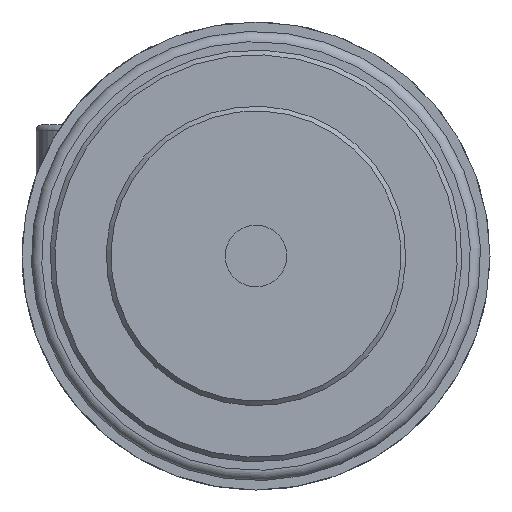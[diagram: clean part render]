
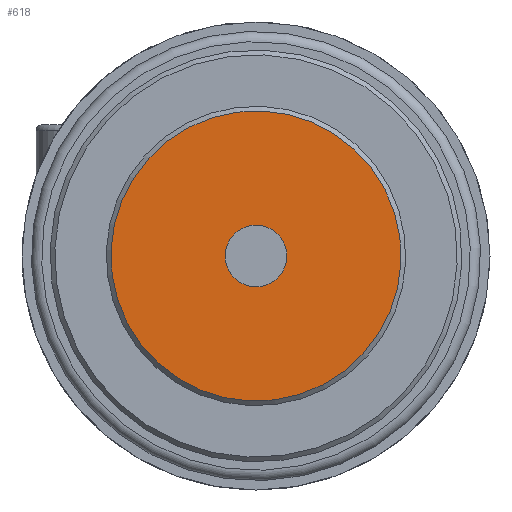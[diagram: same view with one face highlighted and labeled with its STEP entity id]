
A CAD part, left-side view. The second image highlights one B-rep face of the part: STEP entity #618.
In plain terms, the highlighted planar face has unit normal (-1, 0, 0) as drawn and (1, 0, 0) by its records, which use the part's own axes.
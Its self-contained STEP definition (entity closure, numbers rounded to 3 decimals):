
#618 = ADVANCED_FACE( '', ( #1343, #1344 ), #1345, .T. );
#1343 = FACE_OUTER_BOUND( '', #2213, .T. );
#1344 = FACE_BOUND( '', #2214, .T. );
#1345 = PLANE( '', #2215 );
#2213 = EDGE_LOOP( '', ( #3513 ) );
#2214 = EDGE_LOOP( '', ( #3514 ) );
#2215 = AXIS2_PLACEMENT_3D( '', #3515, #3516, #3517 );
#3513 = ORIENTED_EDGE( '', *, *, #4712, .T. );
#3514 = ORIENTED_EDGE( '', *, *, #4637, .T. );
#3515 = CARTESIAN_POINT( '', ( 19., 0., 8. ) );
#3516 = DIRECTION( '', ( 1., 0., 0. ) );
#3517 = DIRECTION( '', ( 0., 0., -1. ) );
#4637 = EDGE_CURVE( '', #5447, #5447, #5448, .T. );
#4712 = EDGE_CURVE( '', #5560, #5560, #5561, .T. );
#5447 = VERTEX_POINT( '', #6550 );
#5448 = CIRCLE( '', #6551, 1.65 );
#5560 = VERTEX_POINT( '', #6679 );
#5561 = CIRCLE( '', #6680, 7.75 );
#6550 = CARTESIAN_POINT( '', ( 19., 0., 1.65 ) );
#6551 = AXIS2_PLACEMENT_3D( '', #7536, #7537, #7538 );
#6679 = CARTESIAN_POINT( '', ( 19., 0., -7.75 ) );
#6680 = AXIS2_PLACEMENT_3D( '', #7649, #7650, #7651 );
#7536 = CARTESIAN_POINT( '', ( 19., 0., 0. ) );
#7537 = DIRECTION( '', ( -1., 0., 0. ) );
#7538 = DIRECTION( '', ( 0., 0., 1. ) );
#7649 = CARTESIAN_POINT( '', ( 19., 0., 0. ) );
#7650 = DIRECTION( '', ( 1., 0., 0. ) );
#7651 = DIRECTION( '', ( 0., 0., -1. ) );
